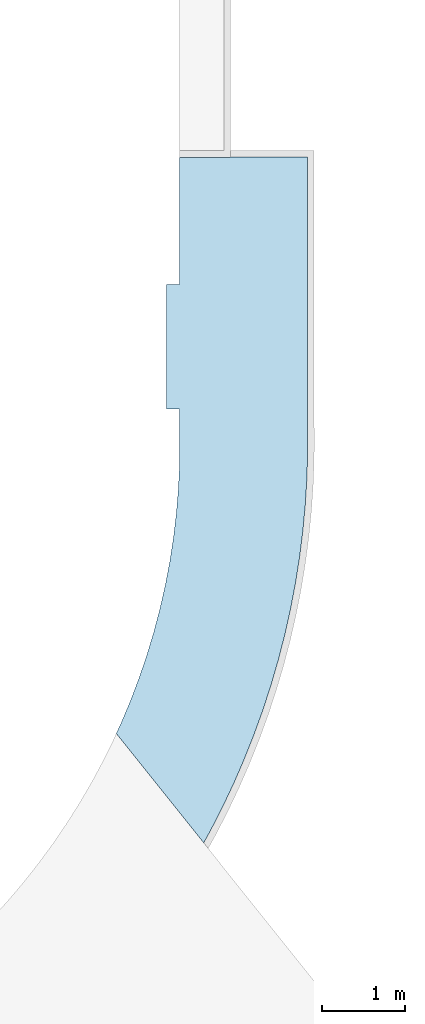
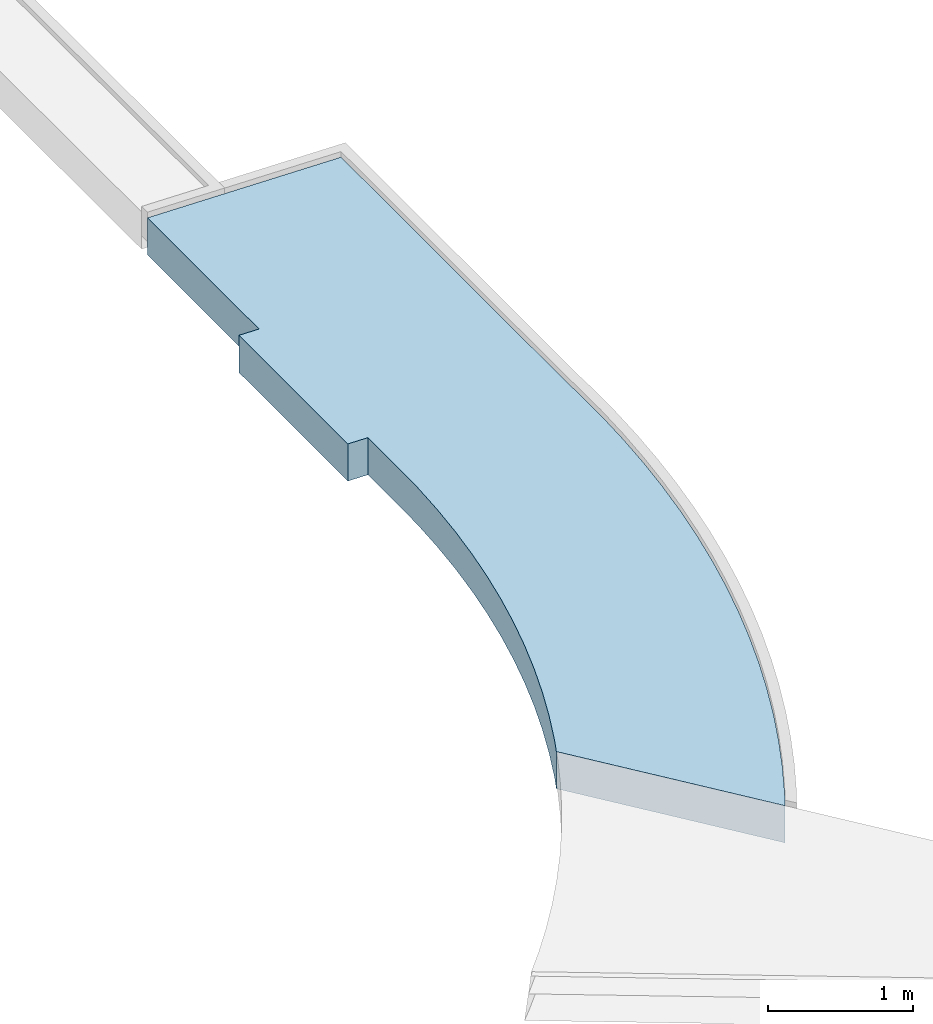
# One storey, part 6 of 8: 1 slab.
"""IFC4 building model written with IfcOpenShell, lengths in millimetres."""

import ifcopenshell
import ifcopenshell.guid

model = None  # the IFC model being written
_history = None  # IfcOwnerHistory: only IFC2X3 demands one
_inside = {}  # id of a spatial element -> (the spatial element, [elements in it])
_under = {}  # id of a project, library or spatial element -> (it, [spatial elements below it])
_declared = {}  # id of a project -> (the project, [libraries it declares])
_typed = {}  # id of a type object -> (the type object, [elements of that type])
_made_of = {}  # id of a material, layer set ... -> (it, [elements and type objects made of it])


def new_model(schema):
    """Start an empty IFC model of exactly this schema.

    Asked for "IFC4X3", IfcOpenShell would pick the latest addendum, in which some entities
    have other attributes; the version numbers below select the first issue.
    IFC2X3 requires an IfcOwnerHistory on every rooted entity: one is made here for all.
    """
    global model, _history
    if schema == "IFC4X3":
        model = ifcopenshell.file(schema_version=(4, 3, 0, 0))
    else:
        model = ifcopenshell.file(schema=schema)
    _inside.clear()
    _under.clear()
    _declared.clear()
    _typed.clear()
    _made_of.clear()
    _history = None
    if model.schema == "IFC2X3":
        org = make("IfcOrganization", Name="unknown")
        user = make(
            "IfcPersonAndOrganization",
            ThePerson=make("IfcPerson", FamilyName="unknown"),
            TheOrganization=org,
        )
        app = make(
            "IfcApplication",
            ApplicationDeveloper=org,
            Version="unknown",
            ApplicationFullName="unknown",
            ApplicationIdentifier="unknown",
        )
        _history = make(
            "IfcOwnerHistory",
            OwningUser=user,
            OwningApplication=app,
            ChangeAction="ADDED",
            CreationDate=0,
        )
    return model


def make(cls, **values):
    """One entity of the class cls with the attributes given. An attribute that is None is left unset."""
    return model.create_entity(
        cls, **{name: value for name, value in values.items() if value is not None}
    )


def entity(cls, *values):
    """Any entity or typed value of the class cls, its attributes in the order of the schema. None: left unset."""
    e = model.create_entity(cls)
    for i, value in enumerate(values):
        if value is not None:
            e[i] = value
    return e


def rooted(cls, **values):
    """An entity with a GlobalId (a new one), such as an element, a storey or a relation."""
    return make(cls, GlobalId=ifcopenshell.guid.new(), OwnerHistory=_history, **values)


def si_unit(unit_type, name, prefix=None):
    """IfcSIUnit, for example si_unit("LENGTHUNIT", "METRE", prefix="MILLI")."""
    return make("IfcSIUnit", UnitType=unit_type, Prefix=prefix, Name=name)


def converted_unit(unit_type, name, factor, base, dimensions=None, offset=None):
    """IfcConversionBasedUnit, such as the inch: factor (a typed value) times the base unit."""
    return make(
        "IfcConversionBasedUnit"
        if offset is None
        else "IfcConversionBasedUnitWithOffset",
        ConversionOffset=offset,
        Dimensions=None
        if dimensions is None
        else entity("IfcDimensionalExponents", *dimensions),
        UnitType=unit_type,
        Name=name,
        ConversionFactor=make(
            "IfcMeasureWithUnit", ValueComponent=factor, UnitComponent=base
        ),
    )


def derived_unit(unit_type, elements):
    """IfcDerivedUnit: a product of units, each with its exponent."""
    return make(
        "IfcDerivedUnit",
        Elements=[
            make("IfcDerivedUnitElement", Unit=unit, Exponent=power)
            for unit, power in elements
        ],
        UnitType=unit_type,
    )


def assignment(units):
    """IfcUnitAssignment: the units of a project."""
    return None if units is None else make("IfcUnitAssignment", Units=units)


def point(xyz):
    """IfcCartesianPoint."""
    return None if xyz is None else make("IfcCartesianPoint", Coordinates=xyz)


def direction(xyz):
    """IfcDirection."""
    return None if xyz is None else make("IfcDirection", DirectionRatios=xyz)


def frame(location, z_axis=None, x_axis=None):
    """IfcAxis2Placement3D, a coordinate frame: its origin and axes. An axis left out is left unset."""
    return make(
        "IfcAxis2Placement3D",
        Location=point(location),
        Axis=direction(z_axis),
        RefDirection=direction(x_axis),
    )


def origin_with_axes():
    """The frame at (0, 0, 0) with the z axis (0, 0, 1) and the x axis (1, 0, 0) written out."""
    return frame((0.0, 0.0, 0.0), z_axis=(0.0, 0.0, 1.0), x_axis=(1.0, 0.0, 0.0))


def place(relative_to, where):
    """IfcLocalPlacement: puts the frame where relative to a parent placement (None: the world)."""
    return make(
        "IfcLocalPlacement", PlacementRelTo=relative_to, RelativePlacement=where
    )


def context(
    kind, dimensions, precision=None, world=None, true_north=None, identifier=None
):
    """IfcGeometricRepresentationContext, for example the 3D "Model" context."""
    return make(
        "IfcGeometricRepresentationContext",
        ContextIdentifier=identifier,
        ContextType=kind,
        CoordinateSpaceDimension=dimensions,
        Precision=precision,
        WorldCoordinateSystem=world,
        TrueNorth=true_north,
    )


def subcontext(parent, identifier, kind, view, scale=None):
    """IfcGeometricRepresentationSubContext, for example "Body" below "Model"."""
    return make(
        "IfcGeometricRepresentationSubContext",
        ContextIdentifier=identifier,
        ContextType=kind,
        ParentContext=parent,
        TargetScale=scale,
        TargetView=view,
    )


def project(units=None, contexts=None):
    """IfcProject with its units and contexts."""
    return rooted(
        "IfcProject",
        Name="project",
        RepresentationContexts=contexts,
        UnitsInContext=assignment(units),
    )


def spatial(cls, under=None, at=None, **own):
    """A site, building, storey or space (cls), placed at a placement, below another one or the project."""
    s = rooted(cls, ObjectPlacement=at, **own)
    if under is not None:
        _under.setdefault(under.id(), (under, []))[1].append(s)
    return s


def point_list(points):
    """IfcCartesianPointList2D or 3D."""
    cls = (
        "IfcCartesianPointList2D" if len(points[0]) == 2 else "IfcCartesianPointList3D"
    )
    return make(cls, CoordList=points)


def polygons(points, faces, closed=None, point_numbers=None):
    """IfcPolygonalFaceSet: a face is its outer loop, then its inner loops; points numbered from 1."""
    made = []
    for loops in faces:
        if len(loops) == 1:
            made.append(make("IfcIndexedPolygonalFace", CoordIndex=loops[0]))
        else:
            made.append(
                make(
                    "IfcIndexedPolygonalFaceWithVoids",
                    CoordIndex=loops[0],
                    InnerCoordIndices=loops[1:],
                )
            )
    return make(
        "IfcPolygonalFaceSet",
        Coordinates=point_list(points),
        Closed=closed,
        Faces=made,
        PnIndex=point_numbers,
    )


def shape(context_of_items, identifier, shape_type, items):
    """IfcShapeRepresentation: the items that make up one representation, for example the "Body"."""
    return make(
        "IfcShapeRepresentation",
        ContextOfItems=context_of_items,
        RepresentationIdentifier=identifier,
        RepresentationType=shape_type,
        Items=items,
    )


def material(Name=None, Category=None):
    """IfcMaterial."""
    return make("IfcMaterial", Name=Name, Category=Category)


def constituent(of_material, Name=None, Category=None, fraction=None):
    """IfcMaterialConstituent: one of the materials an element consists of."""
    return make(
        "IfcMaterialConstituent",
        Name=Name,
        Material=of_material,
        Fraction=fraction,
        Category=Category,
    )


def constituent_set(constituents=None, Name=None):
    """IfcMaterialConstituentSet."""
    return make(
        "IfcMaterialConstituentSet", Name=Name, MaterialConstituents=constituents
    )


def made_of(thing, what):
    """Note that an element or type object is made of a material, layer set ...; save() writes the relation."""
    if what is not None:
        _made_of.setdefault(what.id(), (what, []))[1].append(thing)
    return thing


def type_object(cls, material=None, **own):
    """A type object (cls), such as IfcWallType, which elements share."""
    return made_of(rooted(cls, **own), material)


def element(
    cls,
    number,
    at=None,
    inside=None,
    cuts=None,
    type_object=None,
    material=None,
    context=None,
    identifier="Body",
    shape_type=None,
    held_by="IfcProductDefinitionShape",
    body=None,
    shapes=None,
    **own,
):
    """One element of the class cls, such as IfcWall. Its Tag is "e" and its number.

    at: its placement. inside: the storey or other place that contains it. cuts: it is an
    opening in that element (IfcRelVoidsElement). A single representation is given by context,
    identifier, shape_type and body (its items); several are given by shapes. held_by: the class
    of the entity that holds the representations. save() writes the other relations.
    """
    e = rooted(cls, Tag="e%d" % number, ObjectPlacement=at, **own)
    if body is not None:
        shapes = [shape(context, identifier, shape_type, body)]
    if shapes is not None:
        e.Representation = make(held_by, Representations=shapes)
    if inside is not None:
        _inside.setdefault(inside.id(), (inside, []))[1].append(e)
    if cuts is not None:
        rooted(
            "IfcRelVoidsElement", RelatingBuildingElement=cuts, RelatedOpeningElement=e
        )
    if type_object is not None:
        _typed.setdefault(type_object.id(), (type_object, []))[1].append(e)
    return made_of(e, material)


def aggregate(whole, parts):
    """IfcRelAggregates: a whole, such as a stair, and the parts it consists of."""
    return rooted("IfcRelAggregates", RelatingObject=whole, RelatedObjects=parts)


def save(model, path):
    """Write the relations noted so far, then the file.

    IfcRelAggregates (storeys below a building ...), IfcRelContainedInSpatialStructure (elements
    in a storey), IfcRelDefinesByType, IfcRelAssociatesMaterial and IfcRelDeclares: one each for
    every whole, place, type object, material and project.
    """
    for whole, parts in _under.values():
        aggregate(whole, parts)
    for where, things in _inside.values():
        rooted(
            "IfcRelContainedInSpatialStructure",
            RelatedElements=things,
            RelatingStructure=where,
        )
    for kind, things in _typed.values():
        rooted("IfcRelDefinesByType", RelatedObjects=things, RelatingType=kind)
    for what, things in _made_of.values():
        rooted("IfcRelAssociatesMaterial", RelatedObjects=things, RelatingMaterial=what)
    for by, libraries in _declared.values():
        rooted("IfcRelDeclares", RelatingContext=by, RelatedDefinitions=libraries)
    model.write(path)


model = new_model("IFC4")

# Units and contexts
model_context = context("Model", 3, precision=0.01, world=origin_with_axes(), true_north=direction((0.0, 1.0)))
body_context = subcontext(model_context, "Body", "Model", "MODEL_VIEW")
ifc_project = project(units=[si_unit("LENGTHUNIT", "METRE", prefix="MILLI"), si_unit("AREAUNIT", "SQUARE_METRE"), si_unit("VOLUMEUNIT", "CUBIC_METRE"), converted_unit("PLANEANGLEUNIT", "DEGREE", entity("IfcPlaneAngleMeasure", 0.0174532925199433), si_unit("PLANEANGLEUNIT", "RADIAN"), dimensions=[0, 0, 0, 0, 0, 0, 0]), converted_unit("TIMEUNIT", "Year", entity("IfcTimeMeasure", 31557600.0), si_unit("TIMEUNIT", "SECOND"), dimensions=[0, 0, 1, 0, 0, 0, 0]), si_unit("MASSUNIT", "GRAM", prefix="KILO"), si_unit("THERMODYNAMICTEMPERATUREUNIT", "DEGREE_CELSIUS"), si_unit("LUMINOUSINTENSITYUNIT", "LUMEN"), si_unit("ENERGYUNIT", "JOULE", prefix="MEGA"), derived_unit("THERMALCONDUCTANCEUNIT", [(si_unit("POWERUNIT", "WATT"), 1), (si_unit("LENGTHUNIT", "METRE"), -1), (si_unit("THERMODYNAMICTEMPERATUREUNIT", "KELVIN"), -1)]), derived_unit("SPECIFICHEATCAPACITYUNIT", [(si_unit("ENERGYUNIT", "JOULE"), 1), (si_unit("MASSUNIT", "GRAM", prefix="KILO"), -1), (si_unit("THERMODYNAMICTEMPERATUREUNIT", "KELVIN"), -1)]), derived_unit("MASSDENSITYUNIT", [(si_unit("MASSUNIT", "GRAM", prefix="KILO"), 1), (si_unit("VOLUMEUNIT", "CUBIC_METRE"), -1)])], contexts=[model_context])

# Site, building, storey
site_placement = place(None, origin_with_axes())
site = spatial("IfcSite", under=ifc_project, at=site_placement, Name="Exteriér", CompositionType="ELEMENT")
building_placement = place(site_placement, origin_with_axes())
building = spatial("IfcBuilding", under=site, at=building_placement, Name="Univerzitní lezecké centrum", CompositionType="ELEMENT")
storey_placement = place(building_placement, origin_with_axes())
storey = spatial("IfcBuildingStorey", under=building, at=storey_placement, Name="1.NP", CompositionType="ELEMENT", Elevation=0.0)

# Slab
ifc_material_1 = material(Name="Betonová dlažba zámková")
ifc_constituent_1 = constituent(ifc_material_1, Name="Betonová dlažba zámková")
ifc_material_2 = material(Name="Štěrk - frakce 4/8")
ifc_constituent_2 = constituent(ifc_material_2, Name="Štěrk - frakce 4/8")
ifc_material_3 = material(Name="Štěrk - frakce 8/16")
ifc_constituent_3 = constituent(ifc_material_3, Name="Štěrk - frakce 8/16")
ifc_material_4 = material(Name="Geotextilie 300 g/m2")
ifc_constituent_4 = constituent(ifc_material_4, Name="Geotextilie 300 g/m2")
ifc_material_5 = material(Name="Zemina - hutněná")
ifc_constituent_5 = constituent(ifc_material_5, Name="Zemina - hutněná")
ifc_constituent_set = constituent_set(constituents=[ifc_constituent_1, ifc_constituent_2, ifc_constituent_3, ifc_constituent_4, ifc_constituent_5], Name="!Okapový chodník/Terasa/chodník")
slab_type = type_object("IfcSlabType", Name="!Okapový chodník/Terasa/chodník 312", PredefinedType="ROOF")
slab_placement = place(storey_placement, frame((10044.25505011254, -3794.957063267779, -312.0623937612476), z_axis=(0.0, 0.0, 1.0), x_axis=(0.1094076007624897, 0.9939969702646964, 0.0)))
element("IfcSlab", 1, at=slab_placement, inside=storey, type_object=slab_type, material=ifc_constituent_set, PredefinedType="ROOF", context=body_context, shape_type="Tessellation", body=[
    polygons([(6997.654579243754, 0.0, 312.0623937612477), (5471.182986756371, -168.0162010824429, 308.7020697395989), (5453.677770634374, -8.97668584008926, 311.8828600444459), (3962.682315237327, -173.0880869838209, 308.6006320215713), (3980.187531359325, -332.1276022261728, 305.4198417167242), (3557.745564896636, -378.6250900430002, 304.4898919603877), (3290.734652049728, -404.9500545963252, 303.9633926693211), (3001.020042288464, -422.4053842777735, 303.6142860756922), (2710.874156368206, -429.7951425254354, 303.466490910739), (2420.646597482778, -427.1104252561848, 303.520185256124), (2130.687067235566, -414.3544673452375, 303.775304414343), (1841.344944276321, -391.5426387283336, 304.231540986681), (1552.9688633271, -358.702425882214, 304.8883452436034), (1265.906295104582, -315.8733987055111, 305.7449257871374), (980.5031276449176, -263.1071628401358, 306.800250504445), (697.1032495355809, -200.4672974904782, 308.0530478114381), (416.0481355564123, -128.0292788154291, 309.5018081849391), (137.6764352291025, -45.88038898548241, 311.1447859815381), (0.0, 0.0, 312.0623937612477), (-1197.126693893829, -1193.64874240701, 288.1894189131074), (-1050.670715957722, -1254.966976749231, 286.963054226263), (-754.0152271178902, -1368.248212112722, 284.6974295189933), (-453.9149122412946, -1472.060149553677, 282.6211907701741), (-150.6719469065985, -1566.298259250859, 280.7364285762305), (155.40832892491, -1650.867651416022, 279.0450407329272), (464.0177183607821, -1725.683171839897, 277.5487303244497), (774.8454779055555, -1790.66948763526, 276.2490040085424), (1087.578630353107, -1845.761163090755, 275.1471704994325), (1401.902279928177, -1890.902725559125, 274.2443392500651), (1717.499929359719, -1926.048721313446, 273.5414193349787), (2034.053798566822, -1951.163761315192, 273.0391185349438), (2351.24514463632, -1966.222556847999, 272.7379426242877), (2668.754582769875, -1971.209944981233, 272.6381948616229), (2986.262407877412, -1966.120903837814, 272.7399756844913), (3303.448916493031, -1950.960557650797, 273.0431826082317), (3619.99472868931, -1925.744171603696, 273.5475103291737), (3935.581109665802, -1890.497136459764, 274.2524510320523), (4056.358275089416, -1873.0441112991, 274.6015115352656), (7168.264348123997, -1530.52176225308, 281.451958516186), (6997.654579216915, 7.491962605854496e-08, 252.0503949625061), (5471.182986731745, -168.0162010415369, 248.690070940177), (5453.677770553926, -8.976685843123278, 251.8708612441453), (3962.682315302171, -173.0880869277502, 248.5886332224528), (3980.187531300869, -332.1276023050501, 245.4078429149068), (3557.745564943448, -378.6250900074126, 244.4778931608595), (3290.734652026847, -404.9500545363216, 243.9513938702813), (3001.020042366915, -422.4053842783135, 243.6022872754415), (2710.874156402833, -429.7951424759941, 243.4544921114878), (2420.646597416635, -427.110425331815, 243.5081864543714), (2130.687067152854, -414.3544673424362, 243.763305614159), (1841.344944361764, -391.5426386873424, 244.2195421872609), (1552.968863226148, -358.7024259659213, 244.8763464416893), (1265.906295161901, -315.8733986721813, 245.7329269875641), (980.5031275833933, -263.1071629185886, 246.788251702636), (697.1032495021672, -200.4672975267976, 248.0410490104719), (416.0481354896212, -128.0292788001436, 249.4898093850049), (137.6764351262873, -45.88038901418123, 251.1327871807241), (8.572165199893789e-08, 7.315570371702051e-08, 252.0503949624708), (-1197.126693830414, -1193.648742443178, 228.1774201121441), (-1050.670715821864, -1254.966976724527, 226.9510554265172), (-754.0152271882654, -1368.248212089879, 224.6854307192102), (-453.9149121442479, -1472.060149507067, 222.6091919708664), (-150.6719470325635, -1566.298259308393, 220.7244297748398), (155.4083289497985, -1650.867651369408, 219.0330419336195), (464.0177183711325, -1725.683171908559, 217.5367315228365), (774.8454778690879, -1790.669487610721, 216.2370052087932), (1087.578630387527, -1845.761163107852, 215.1351716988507), (1401.90227998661, -1890.902725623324, 214.2323404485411), (1717.499929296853, -1926.048721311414, 213.5294205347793), (2034.053798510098, -1951.163761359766, 213.0271197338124), (2351.245144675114, -1966.22255687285, 212.7259438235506), (2668.754582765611, -1971.20994497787, 212.6261960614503), (2986.262407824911, -1966.120903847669, 212.7279768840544), (3303.44891656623, -1950.960557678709, 213.0311838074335), (3619.994728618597, -1925.744171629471, 213.5355115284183), (3935.581109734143, -1890.497136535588, 214.2404522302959), (4056.358275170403, -1873.044111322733, 214.589512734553), (7168.264348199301, -1530.521762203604, 221.4399597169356)], [[[1, 2, 3, 4, 5, 6, 7, 8, 9, 10, 11, 12, 13, 14, 15, 16, 17, 18, 19, 20, 21, 22, 23, 24, 25, 26, 27, 28, 29, 30, 31, 32, 33, 34, 35, 36, 37, 38, 39]], [[1, 40, 41, 2]], [[2, 41, 42, 3]], [[3, 42, 43, 4]], [[4, 43, 44, 5]], [[5, 44, 45, 6]], [[6, 45, 46, 7]], [[7, 46, 47, 8]], [[8, 47, 48, 9]], [[9, 48, 49, 10]], [[10, 49, 50, 11]], [[11, 50, 51, 12]], [[12, 51, 52, 13]], [[13, 52, 53, 14]], [[14, 53, 54, 15]], [[15, 54, 55, 16]], [[16, 55, 56, 17]], [[17, 56, 57, 18]], [[18, 57, 58, 19]], [[19, 58, 59, 20]], [[20, 59, 60, 21]], [[21, 60, 61, 22]], [[22, 61, 62, 23]], [[23, 62, 63, 24]], [[24, 63, 64, 25]], [[25, 64, 65, 26]], [[26, 65, 66, 27]], [[27, 66, 67, 28]], [[28, 67, 68, 29]], [[29, 68, 69, 30]], [[30, 69, 70, 31]], [[31, 70, 71, 32]], [[32, 71, 72, 33]], [[33, 72, 73, 34]], [[34, 73, 74, 35]], [[35, 74, 75, 36]], [[36, 75, 76, 37]], [[37, 76, 77, 38]], [[38, 77, 78, 39]], [[39, 78, 40, 1]], [[40, 78, 77, 76, 75, 74, 73, 72, 71, 70, 69, 68, 67, 66, 65, 64, 63, 62, 61, 60, 59, 58, 57, 56, 55, 54, 53, 52, 51, 50, 49, 48, 47, 46, 45, 44, 43, 42, 41]]], closed=True),
    polygons([(7168.264348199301, -1530.521762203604, 221.4399597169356), (7168.264348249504, -1530.521762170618, 181.4319605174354), (6997.654579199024, 1.248672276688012e-07, 212.0423957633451), (6997.654579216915, 7.491962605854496e-08, 252.0503949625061), (4056.358275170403, -1873.044111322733, 214.589512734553), (4056.358275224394, -1873.044111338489, 174.5815135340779), (3935.581109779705, -1890.497136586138, 174.2324530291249), (3619.994728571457, -1925.744171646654, 173.5275123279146), (3303.448916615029, -1950.960557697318, 173.0231846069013), (2986.262407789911, -1966.120903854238, 172.7199776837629), (2668.754582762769, -1971.20994497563, 172.6181968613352), (2351.245144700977, -1966.22255688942, 172.7179446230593), (2034.053798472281, -1951.163761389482, 173.0191205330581), (1717.499929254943, -1926.04872131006, 173.5214213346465), (1401.902280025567, -1890.902725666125, 174.2243412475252), (1087.578630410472, -1845.761163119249, 175.1271724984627), (774.8454778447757, -1790.669487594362, 176.2290060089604), (464.0177183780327, -1725.683171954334, 177.528732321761), (155.4083289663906, -1650.867651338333, 179.025042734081), (-150.6719471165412, -1566.29825934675, 180.7164305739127), (-453.9149120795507, -1472.060149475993, 182.6011927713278), (-754.0152272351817, -1368.248212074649, 184.6774315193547), (-1050.670715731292, -1254.966976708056, 186.9430562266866), (-1197.126693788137, -1193.648742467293, 188.1694209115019), (1.42869716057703e-07, 1.219255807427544e-07, 212.0423957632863), (137.6764350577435, -45.8803890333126, 211.1247879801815), (416.0481354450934, -128.0292787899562, 209.4818101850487), (697.1032494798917, -200.4672975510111, 208.0330498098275), (980.5031275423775, -263.1071629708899, 206.7802525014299), (1265.906295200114, -315.8733986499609, 205.7249277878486), (1552.968863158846, -358.7024260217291, 204.8683472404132), (1841.344944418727, -391.5426386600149, 204.2115429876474), (2130.687067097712, -414.3544673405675, 203.7553064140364), (2420.646597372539, -427.1104253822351, 203.5001872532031), (2710.874156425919, -429.7951424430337, 203.446492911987), (3001.020042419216, -422.4053842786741, 203.5942880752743), (3290.734652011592, -404.9500544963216, 203.9433946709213), (3557.745564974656, -378.6250899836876, 204.469893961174), (3980.187531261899, -332.1276023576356, 205.399843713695), (3962.6823153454, -173.0880868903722, 208.5806340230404), (5453.677770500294, -8.976685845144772, 211.8628620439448), (5471.182986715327, -168.0162010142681, 208.6820717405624), (5471.182986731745, -168.0162010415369, 248.690070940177), (5453.677770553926, -8.976685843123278, 251.8708612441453), (3962.682315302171, -173.0880869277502, 248.5886332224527), (3980.187531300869, -332.1276023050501, 245.4078429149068), (3557.745564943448, -378.6250900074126, 244.4778931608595), (3290.734652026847, -404.9500545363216, 243.9513938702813), (3001.020042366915, -422.4053842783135, 243.6022872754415), (2710.874156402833, -429.7951424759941, 243.4544921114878), (2420.646597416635, -427.110425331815, 243.5081864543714), (2130.687067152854, -414.3544673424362, 243.763305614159), (1841.344944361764, -391.5426386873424, 244.2195421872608), (1552.968863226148, -358.7024259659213, 244.8763464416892), (1265.906295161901, -315.8733986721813, 245.7329269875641), (980.5031275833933, -263.1071629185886, 246.788251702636), (697.1032495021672, -200.4672975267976, 248.0410490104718), (416.0481354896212, -128.0292788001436, 249.4898093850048), (137.6764351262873, -45.88038901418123, 251.1327871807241), (8.572165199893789e-08, 7.315570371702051e-08, 252.0503949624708), (-1197.126693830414, -1193.648742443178, 228.1774201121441), (-1050.670715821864, -1254.966976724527, 226.9510554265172), (-754.0152271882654, -1368.248212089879, 224.6854307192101), (-453.9149121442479, -1472.060149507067, 222.6091919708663), (-150.6719470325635, -1566.298259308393, 220.7244297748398), (155.4083289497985, -1650.867651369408, 219.0330419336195), (464.0177183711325, -1725.683171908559, 217.5367315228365), (774.8454778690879, -1790.669487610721, 216.2370052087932), (1087.578630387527, -1845.761163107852, 215.1351716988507), (1401.90227998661, -1890.902725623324, 214.2323404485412), (1717.499929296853, -1926.048721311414, 213.5294205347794), (2034.053798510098, -1951.163761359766, 213.0271197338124), (2351.245144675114, -1966.22255687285, 212.7259438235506), (2668.754582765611, -1971.20994497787, 212.6261960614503), (2986.262407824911, -1966.120903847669, 212.7279768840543), (3303.44891656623, -1950.960557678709, 213.0311838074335), (3619.994728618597, -1925.744171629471, 213.5355115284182), (3935.581109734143, -1890.497136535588, 214.2404522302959)], [[[1, 2, 3, 4]], [[5, 6, 2, 1]], [[3, 2, 6, 7, 8, 9, 10, 11, 12, 13, 14, 15, 16, 17, 18, 19, 20, 21, 22, 23, 24, 25, 26, 27, 28, 29, 30, 31, 32, 33, 34, 35, 36, 37, 38, 39, 40, 41, 42]], [[4, 3, 42, 43]], [[4, 43, 44, 45, 46, 47, 48, 49, 50, 51, 52, 53, 54, 55, 56, 57, 58, 59, 60, 61, 62, 63, 64, 65, 66, 67, 68, 69, 70, 71, 72, 73, 74, 75, 76, 77, 78, 5, 1]], [[78, 7, 6, 5]], [[77, 8, 7, 78]], [[76, 9, 8, 77]], [[75, 10, 9, 76]], [[74, 11, 10, 75]], [[73, 12, 11, 74]], [[72, 13, 12, 73]], [[71, 14, 13, 72]], [[70, 15, 14, 71]], [[69, 16, 15, 70]], [[68, 17, 16, 69]], [[67, 18, 17, 68]], [[66, 19, 18, 67]], [[65, 20, 19, 66]], [[64, 21, 20, 65]], [[63, 22, 21, 64]], [[62, 23, 22, 63]], [[61, 24, 23, 62]], [[60, 25, 24, 61]], [[59, 26, 25, 60]], [[58, 27, 26, 59]], [[57, 28, 27, 58]], [[56, 29, 28, 57]], [[55, 30, 29, 56]], [[54, 31, 30, 55]], [[53, 32, 31, 54]], [[52, 33, 32, 53]], [[51, 34, 33, 52]], [[50, 35, 34, 51]], [[49, 36, 35, 50]], [[48, 37, 36, 49]], [[47, 38, 37, 48]], [[46, 39, 38, 47]], [[45, 40, 39, 46]], [[44, 41, 40, 45]], [[43, 42, 41, 44]]], closed=True),
    polygons([(7168.264348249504, -1530.521762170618, 181.4319605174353), (7168.264348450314, -1530.521762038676, 21.39996371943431), (6997.654579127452, 3.246558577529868e-07, 52.01039896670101), (6997.654579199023, 1.248672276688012e-07, 212.0423957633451), (4056.358275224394, -1873.044111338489, 174.5815135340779), (4056.35827544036, -1873.04411140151, 14.54951673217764), (3935.581109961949, -1890.497136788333, 14.20045622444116), (3619.994728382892, -1925.744171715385, 13.49551552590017), (3303.448916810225, -1950.960557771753, 12.99118780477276), (2986.262407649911, -1966.120903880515, 12.68798088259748), (2668.754582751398, -1971.209944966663, 12.58620006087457), (2351.245144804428, -1966.222556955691, 12.685947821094), (2034.053798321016, -1951.16376150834, 12.98712373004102), (1717.499929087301, -1926.048721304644, 13.48942453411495), (1401.90228018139, -1890.902725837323, 14.1923444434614), (1087.578630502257, -1845.761163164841, 15.09517569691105), (774.8454777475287, -1790.669487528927, 16.19700920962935), (464.0177184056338, -1725.683172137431, 17.49673551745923), (155.4083290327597, -1650.867651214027, 18.99304593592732), (-150.6719474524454, -1566.298259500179, 20.68443377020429), (-453.9149118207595, -1472.060149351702, 22.56919597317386), (-754.0152274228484, -1368.248212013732, 24.64543471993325), (-1050.670715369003, -1254.966976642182, 26.91105942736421), (-1197.12669361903, -1193.648742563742, 28.13742410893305), (3.714628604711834e-07, 3.170121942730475e-07, 52.01039896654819), (137.6764347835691, -45.88038910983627, 51.09279117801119), (416.0481352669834, -128.0292787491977, 49.44981338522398), (697.1032493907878, -200.4672976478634, 48.00105300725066), (980.5031273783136, -263.1071631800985, 46.7482556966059), (1265.906295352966, -315.8733985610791, 45.6929309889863), (1552.968862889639, -358.7024262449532, 44.83635043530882), (1841.344944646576, -391.542638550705, 44.17954618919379), (2130.687066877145, -414.3544673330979, 43.72330961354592), (2420.646597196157, -427.1104255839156, 43.46819044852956), (2710.87415651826, -429.7951423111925, 43.41449611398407), (3001.02004262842, -422.405384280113, 43.56229127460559), (3290.734651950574, -404.9500543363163, 43.91139787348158), (3557.745565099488, -378.6250898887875, 44.43789716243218), (3980.187531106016, -332.1276025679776, 45.36784690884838), (3962.682315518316, -173.0880867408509, 48.54863722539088), (5453.677770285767, -8.976685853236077, 51.83086524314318), (5471.182986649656, -168.0162009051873, 48.65007494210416), (5471.182986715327, -168.0162010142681, 208.6820717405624), (5453.677770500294, -8.976685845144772, 211.8628620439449), (3962.6823153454, -173.0880868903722, 208.5806340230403), (3980.187531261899, -332.1276023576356, 205.3998437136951), (3557.745564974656, -378.6250899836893, 204.469893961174), (3290.734652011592, -404.9500544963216, 203.9433946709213), (3001.020042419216, -422.4053842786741, 203.5942880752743), (2710.874156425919, -429.7951424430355, 203.4464929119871), (2420.646597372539, -427.1104253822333, 203.5001872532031), (2130.687067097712, -414.3544673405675, 203.7553064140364), (1841.344944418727, -391.5426386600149, 204.2115429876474), (1552.968863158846, -358.7024260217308, 204.8683472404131), (1265.906295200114, -315.8733986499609, 205.7249277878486), (980.5031275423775, -263.1071629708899, 206.7802525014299), (697.1032494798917, -200.4672975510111, 208.0330498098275), (416.0481354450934, -128.0292787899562, 209.4818101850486), (137.6764350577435, -45.88038903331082, 211.1247879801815), (1.42869716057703e-07, 1.219255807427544e-07, 212.0423957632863), (-1197.126693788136, -1193.648742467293, 188.1694209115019), (-1050.670715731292, -1254.966976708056, 186.9430562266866), (-754.0152272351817, -1368.248212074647, 184.6774315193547), (-453.9149120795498, -1472.060149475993, 182.6011927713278), (-150.6719471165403, -1566.29825934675, 180.7164305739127), (155.4083289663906, -1650.867651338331, 179.0250427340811), (464.0177183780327, -1725.683171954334, 177.5287323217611), (774.8454778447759, -1790.669487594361, 176.2290060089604), (1087.578630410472, -1845.761163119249, 175.1271724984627), (1401.902280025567, -1890.902725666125, 174.2243412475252), (1717.499929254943, -1926.04872131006, 173.5214213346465), (2034.053798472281, -1951.16376138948, 173.0191205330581), (2351.245144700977, -1966.22255688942, 172.7179446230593), (2668.754582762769, -1971.20994497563, 172.6181968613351), (2986.262407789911, -1966.120903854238, 172.7199776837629), (3303.448916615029, -1950.960557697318, 173.0231846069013), (3619.994728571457, -1925.744171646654, 173.5275123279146), (3935.581109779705, -1890.497136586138, 174.2324530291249)], [[[1, 2, 3, 4]], [[5, 6, 2, 1]], [[3, 2, 6, 7, 8, 9, 10, 11, 12, 13, 14, 15, 16, 17, 18, 19, 20, 21, 22, 23, 24, 25, 26, 27, 28, 29, 30, 31, 32, 33, 34, 35, 36, 37, 38, 39, 40, 41, 42]], [[4, 3, 42, 43]], [[4, 43, 44, 45, 46, 47, 48, 49, 50, 51, 52, 53, 54, 55, 56, 57, 58, 59, 60, 61, 62, 63, 64, 65, 66, 67, 68, 69, 70, 71, 72, 73, 74, 75, 76, 77, 78, 5, 1]], [[78, 7, 6, 5]], [[77, 8, 7, 78]], [[76, 9, 8, 77]], [[75, 10, 9, 76]], [[74, 11, 10, 75]], [[73, 12, 11, 74]], [[72, 13, 12, 73]], [[71, 14, 13, 72]], [[70, 15, 14, 71]], [[69, 16, 15, 70]], [[68, 17, 16, 69]], [[67, 18, 17, 68]], [[66, 19, 18, 67]], [[65, 20, 19, 66]], [[64, 21, 20, 65]], [[63, 22, 21, 64]], [[62, 23, 22, 63]], [[61, 24, 23, 62]], [[60, 25, 24, 61]], [[59, 26, 25, 60]], [[58, 27, 26, 59]], [[57, 28, 27, 58]], [[56, 29, 28, 57]], [[55, 30, 29, 56]], [[54, 31, 30, 55]], [[53, 32, 31, 54]], [[52, 33, 32, 53]], [[51, 34, 33, 52]], [[50, 35, 34, 51]], [[49, 36, 35, 50]], [[48, 37, 36, 49]], [[47, 38, 37, 48]], [[46, 39, 38, 47]], [[45, 40, 39, 46]], [[44, 41, 40, 45]], [[43, 42, 41, 44]]], closed=True),
    polygons([(7168.264348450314, -1530.521762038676, 21.39996371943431), (7168.264348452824, -1530.521762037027, 19.39956375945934), (6997.654579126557, 3.271534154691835e-07, 50.00999900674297), (6997.654579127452, 3.246558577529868e-07, 52.01039896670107), (4056.35827544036, -1873.04411140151, 14.54951673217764), (4056.35827544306, -1873.044111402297, 12.54911677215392), (3935.581109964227, -1890.497136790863, 12.20005626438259), (3619.994728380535, -1925.744171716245, 11.49511556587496), (3303.448916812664, -1950.960557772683, 10.99078784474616), (2986.262407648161, -1966.120903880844, 10.68758092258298), (2668.754582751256, -1971.209944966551, 10.58580010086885), (2351.245144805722, -1966.222556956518, 10.68554786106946), (2034.053798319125, -1951.163761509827, 10.98672377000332), (1717.499929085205, -1926.048721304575, 11.48902457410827), (1401.902280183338, -1890.902725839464, 12.1919444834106), (1087.578630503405, -1845.761163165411, 13.09477573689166), (774.8454777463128, -1790.669487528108, 14.19660924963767), (464.0177184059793, -1725.68317213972, 15.49633555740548), (155.4083290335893, -1650.867651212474, 16.9926459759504), (-150.6719474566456, -1566.298259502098, 18.68403381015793), (-453.9149118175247, -1472.060149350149, 20.56879601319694), (-754.015227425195, -1368.248212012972, 22.64503475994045), (-1050.670715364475, -1254.966976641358, 24.9106594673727), (-1197.126693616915, -1193.648742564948, 26.13702414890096), (3.743205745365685e-07, 3.19451132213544e-07, 50.00999900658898), (137.676434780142, -45.88038911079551, 49.09239121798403), (416.0481352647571, -128.0292787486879, 47.44941342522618), (697.1032493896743, -200.4672976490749, 46.0006530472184), (980.5031273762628, -263.1071631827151, 44.7478557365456), (1265.906295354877, -315.8733985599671, 43.69253102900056), (1552.968862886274, -358.7024262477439, 42.83595047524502), (1841.344944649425, -391.542638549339, 42.1791462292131), (2130.687066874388, -414.3544673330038, 41.72290965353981), (2420.646597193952, -427.1104255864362, 41.46779048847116), (2710.874156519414, -429.7951423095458, 41.41409615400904), (3001.020042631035, -422.4053842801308, 41.56189131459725), (3290.734651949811, -404.9500543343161, 41.9109979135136), (3557.745565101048, -378.6250898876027, 42.43749720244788), (3980.187531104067, -332.1276025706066, 43.3674469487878), (3962.682315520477, -173.0880867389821, 46.54823726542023), (5453.677770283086, -8.976685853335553, 49.83046528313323), (5471.182986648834, -168.0162009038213, 46.64967498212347), (5471.182986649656, -168.0162009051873, 48.65007494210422), (5453.677770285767, -8.976685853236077, 51.83086524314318), (3962.682315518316, -173.0880867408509, 48.54863722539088), (3980.187531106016, -332.1276025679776, 45.36784690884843), (3557.745565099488, -378.6250898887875, 44.43789716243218), (3290.734651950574, -404.9500543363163, 43.91139787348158), (3001.02004262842, -422.405384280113, 43.56229127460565), (2710.87415651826, -429.7951423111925, 43.41449611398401), (2420.646597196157, -427.1104255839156, 43.46819044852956), (2130.687066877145, -414.3544673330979, 43.72330961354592), (1841.344944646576, -391.542638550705, 44.17954618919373), (1552.968862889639, -358.7024262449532, 44.83635043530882), (1265.906295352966, -315.8733985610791, 45.6929309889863), (980.5031273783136, -263.1071631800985, 46.7482556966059), (697.1032493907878, -200.4672976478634, 48.00105300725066), (416.0481352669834, -128.0292787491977, 49.44981338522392), (137.6764347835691, -45.88038910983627, 51.09279117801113), (3.714637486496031e-07, 3.170139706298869e-07, 52.01039896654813), (-1197.12669361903, -1193.648742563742, 28.13742410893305), (-1050.670715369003, -1254.966976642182, 26.91105942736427), (-754.0152274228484, -1368.248212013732, 24.64543471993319), (-453.9149118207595, -1472.060149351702, 22.56919597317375), (-150.6719474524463, -1566.298259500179, 20.68443377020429), (155.4083290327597, -1650.867651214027, 18.99304593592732), (464.0177184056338, -1725.683172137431, 17.49673551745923), (774.8454777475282, -1790.669487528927, 16.1970092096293), (1087.578630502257, -1845.761163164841, 15.09517569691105), (1401.90228018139, -1890.902725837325, 14.1923444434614), (1717.499929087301, -1926.048721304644, 13.48942453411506), (2034.053798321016, -1951.16376150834, 12.98712373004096), (2351.245144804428, -1966.222556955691, 12.685947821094), (2668.754582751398, -1971.209944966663, 12.58620006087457), (2986.262407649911, -1966.120903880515, 12.68798088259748), (3303.448916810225, -1950.960557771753, 12.99118780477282), (3619.994728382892, -1925.744171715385, 13.49551552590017), (3935.581109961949, -1890.497136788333, 14.20045622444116)], [[[1, 2, 3, 4]], [[5, 6, 2, 1]], [[3, 2, 6, 7, 8, 9, 10, 11, 12, 13, 14, 15, 16, 17, 18, 19, 20, 21, 22, 23, 24, 25, 26, 27, 28, 29, 30, 31, 32, 33, 34, 35, 36, 37, 38, 39, 40, 41, 42]], [[4, 3, 42, 43]], [[4, 43, 44, 45, 46, 47, 48, 49, 50, 51, 52, 53, 54, 55, 56, 57, 58, 59, 60, 61, 62, 63, 64, 65, 66, 67, 68, 69, 70, 71, 72, 73, 74, 75, 76, 77, 78, 5, 1]], [[78, 7, 6, 5]], [[77, 8, 7, 78]], [[76, 9, 8, 77]], [[75, 10, 9, 76]], [[74, 11, 10, 75]], [[73, 12, 11, 74]], [[72, 13, 12, 73]], [[71, 14, 13, 72]], [[70, 15, 14, 71]], [[69, 16, 15, 70]], [[68, 17, 16, 69]], [[67, 18, 17, 68]], [[66, 19, 18, 67]], [[65, 20, 19, 66]], [[64, 21, 20, 65]], [[63, 22, 21, 64]], [[62, 23, 22, 63]], [[61, 24, 23, 62]], [[60, 25, 24, 61]], [[59, 26, 25, 60]], [[58, 27, 26, 59]], [[57, 28, 27, 58]], [[56, 29, 28, 57]], [[55, 30, 29, 56]], [[54, 31, 30, 55]], [[53, 32, 31, 54]], [[52, 33, 32, 53]], [[51, 34, 33, 52]], [[50, 35, 34, 51]], [[49, 36, 35, 50]], [[48, 37, 36, 49]], [[47, 38, 37, 48]], [[46, 39, 38, 47]], [[45, 40, 39, 46]], [[44, 41, 40, 45]], [[43, 42, 41, 44]]], closed=True),
    polygons([(7168.264348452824, -1530.521762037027, 19.39956375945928), (7168.264348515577, -1530.521761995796, -30.61043515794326), (6997.654579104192, 3.895870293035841e-07, 8.97645291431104e-08), (6997.654579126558, 3.271516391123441e-07, 50.00999900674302), (4056.35827544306, -1873.044111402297, 12.54911677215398), (4056.358275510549, -1873.044111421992, -37.46088214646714), (3935.581110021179, -1890.497136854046, -37.80994265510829), (3619.994728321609, -1925.744171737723, -38.51488335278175), (3303.448916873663, -1950.960557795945, -39.01921107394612), (2986.262407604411, -1966.120903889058, -39.32241799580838), (2668.754582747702, -1971.20994496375, -39.4241988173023), (2351.24514483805, -1966.222556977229, -39.32445105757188), (2034.053798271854, -1951.163761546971, -39.02327514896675), (1717.499929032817, -1926.048721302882, -38.52097434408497), (1401.902280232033, -1890.902725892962, -37.81805443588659), (1087.578630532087, -1845.761163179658, -36.91522318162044), (774.845477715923, -1790.66948750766, -35.81338966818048), (464.0177184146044, -1725.683172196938, -34.51366336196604), (155.4083290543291, -1650.867651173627, -33.01735294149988), (-150.6719475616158, -1566.298259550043, -31.32596510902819), (-453.9149117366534, -1472.060149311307, -29.44120290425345), (-754.0152274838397, -1368.248211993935, -27.3649641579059), (-1050.670715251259, -1254.966976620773, -25.09933945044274), (-1197.12669356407, -1193.648742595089, -23.87297476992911), (4.457563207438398e-07, 3.804156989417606e-07, 8.958112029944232e-08), (137.6764346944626, -45.88038913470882, -0.9176077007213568), (416.0481352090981, -128.0292787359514, -2.560585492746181), (697.1032493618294, -200.4672976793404, -4.009345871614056), (980.5031273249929, -263.1071632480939, -5.262143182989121), (1265.906295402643, -315.8733985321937, -6.317467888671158), (1552.968862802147, -358.7024263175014, -7.174048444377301), (1841.344944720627, -391.5426385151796, -7.830852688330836), (2130.687066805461, -414.3544673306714, -8.287089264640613), (2420.646597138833, -427.1104256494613, -8.542208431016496), (2710.874156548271, -429.7951422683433, -8.595902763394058), (3001.020042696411, -422.4053842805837, -8.4481076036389), (3290.734651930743, -404.9500542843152, -8.099001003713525), (3557.745565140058, -378.6250898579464, -7.572501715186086), (3980.187531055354, -332.1276026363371, -6.642551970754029), (3962.682315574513, -173.0880866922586, -3.461761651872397), (5453.677770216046, -8.976685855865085, -0.1795336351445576), (5471.182986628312, -168.0162008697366, -3.360323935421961), (5471.182986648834, -168.0162009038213, 46.64967498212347), (5453.677770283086, -8.976685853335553, 49.83046528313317), (3962.682315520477, -173.0880867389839, 46.54823726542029), (3980.187531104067, -332.1276025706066, 43.3674469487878), (3557.745565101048, -378.6250898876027, 42.43749720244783), (3290.734651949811, -404.9500543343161, 41.9109979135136), (3001.020042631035, -422.4053842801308, 41.56189131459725), (2710.874156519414, -429.7951423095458, 41.41409615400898), (2420.646597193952, -427.1104255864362, 41.46779048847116), (2130.687066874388, -414.3544673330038, 41.72290965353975), (1841.344944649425, -391.542638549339, 42.17914622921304), (1552.968862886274, -358.7024262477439, 42.83595047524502), (1265.906295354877, -315.8733985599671, 43.69253102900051), (980.5031273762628, -263.1071631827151, 44.7478557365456), (697.1032493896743, -200.4672976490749, 46.00065304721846), (416.0481352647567, -128.0292787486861, 47.44941342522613), (137.6764347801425, -45.88038911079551, 49.09239121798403), (3.743205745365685e-07, 3.19451132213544e-07, 50.00999900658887), (-1197.126693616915, -1193.648742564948, 26.1370241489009), (-1050.670715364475, -1254.966976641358, 24.9106594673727), (-754.0152274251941, -1368.248212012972, 22.6450347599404), (-453.9149118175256, -1472.060149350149, 20.56879601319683), (-150.6719474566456, -1566.298259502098, 18.68403381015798), (155.4083290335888, -1650.867651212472, 16.9926459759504), (464.0177184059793, -1725.68317213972, 15.49633555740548), (774.8454777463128, -1790.669487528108, 14.19660924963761), (1087.578630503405, -1845.76116316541, 13.09477573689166), (1401.902280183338, -1890.902725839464, 12.19194448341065), (1717.499929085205, -1926.048721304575, 11.48902457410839), (2034.053798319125, -1951.163761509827, 10.98672377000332), (2351.245144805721, -1966.222556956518, 10.68554786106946), (2668.754582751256, -1971.209944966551, 10.58580010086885), (2986.262407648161, -1966.120903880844, 10.68758092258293), (3303.448916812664, -1950.960557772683, 10.99078784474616), (3619.994728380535, -1925.744171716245, 11.49511556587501), (3935.581109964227, -1890.497136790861, 12.20005626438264)], [[[1, 2, 3, 4]], [[5, 6, 2, 1]], [[2, 6, 7, 8, 9, 10, 11, 12, 13, 14, 15, 16, 17, 18, 19, 20, 21, 22, 23, 24, 25, 26, 27, 28, 29, 30, 31, 32, 33, 34, 35, 36, 37, 38, 39, 40, 41, 42, 3]], [[4, 3, 42, 43]], [[4, 43, 44, 45, 46, 47, 48, 49, 50, 51, 52, 53, 54, 55, 56, 57, 58, 59, 60, 61, 62, 63, 64, 65, 66, 67, 68, 69, 70, 71, 72, 73, 74, 75, 76, 77, 78, 5, 1]], [[78, 7, 6, 5]], [[77, 8, 7, 78]], [[76, 9, 8, 77]], [[75, 10, 9, 76]], [[74, 11, 10, 75]], [[73, 12, 11, 74]], [[72, 13, 12, 73]], [[71, 14, 13, 72]], [[70, 15, 14, 71]], [[69, 16, 15, 70]], [[68, 17, 16, 69]], [[67, 18, 17, 68]], [[66, 19, 18, 67]], [[65, 20, 19, 66]], [[64, 21, 20, 65]], [[63, 22, 21, 64]], [[62, 23, 22, 63]], [[61, 24, 23, 62]], [[60, 25, 24, 61]], [[59, 26, 25, 60]], [[58, 27, 26, 59]], [[57, 28, 27, 58]], [[56, 29, 28, 57]], [[55, 30, 29, 56]], [[54, 31, 30, 55]], [[53, 32, 31, 54]], [[52, 33, 32, 53]], [[51, 34, 33, 52]], [[50, 35, 34, 51]], [[49, 36, 35, 50]], [[48, 37, 36, 49]], [[47, 38, 37, 48]], [[46, 39, 38, 47]], [[45, 40, 39, 46]], [[44, 41, 40, 45]], [[43, 42, 41, 44]]], closed=True),
])

save(model, "model.ifc")
